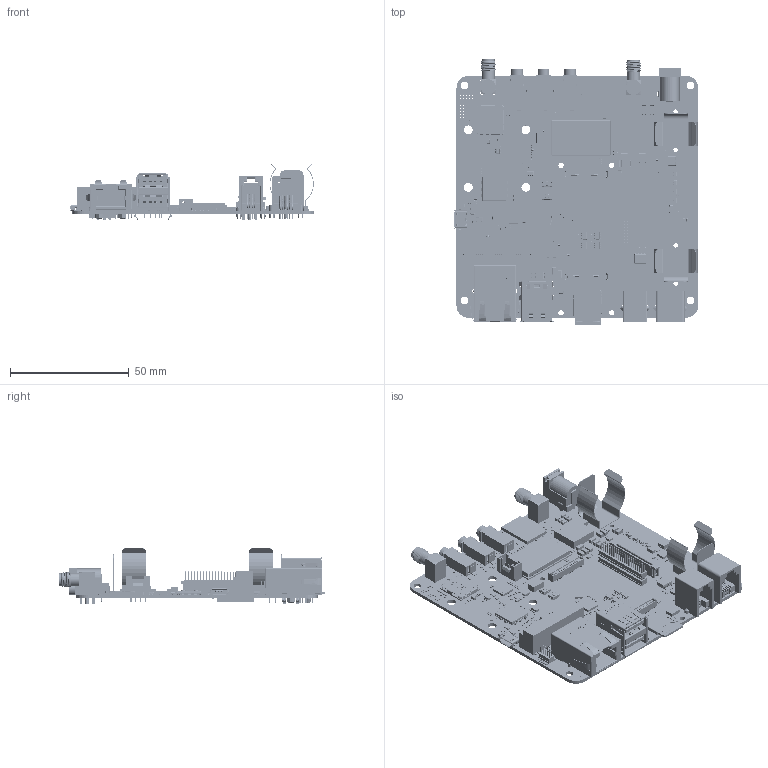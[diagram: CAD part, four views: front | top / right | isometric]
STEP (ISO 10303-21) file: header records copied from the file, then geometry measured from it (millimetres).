
FILE_DESCRIPTION(('Open CASCADE Model'),'2;1');
FILE_NAME('Open CASCADE Shape Model','2022-10-06T12:24:04',('Author'),( 'Open CASCADE'),'Open CASCADE STEP processor 7.5','Open CASCADE 7.5' ,'Unknown');
FILE_SCHEMA(('AUTOMOTIVE_DESIGN { 1 0 10303 214 1 1 1 1 }'));
Length unit declared in the file: millimetre
Products named in the file (520): PCB; Board; Open CASCADE STEP translator 7.5 10.1.1; R122; RES-0402; C157; CAP-0805; R88; R98; R97; R84; J10; ZX62-AB-5PA(31); D7; PRTR5V0U2X; SIM2; 5870494320; Body; Pins; D16; User Library-D_1006; User Library-D_1006_Pad002; User Library-D_1006_Cut; User Library-D_1006_Pad001; D15; D14; D13; C156; CAP-0402; C155; C154; C153; C152; R33; R26; R24; C41; C22; D12; D11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
Assembly tree (1075 placements, depth 5):
  PCB
    Board
      Open CASCADE STEP translator 7.5 10.1.1
    R122
      RES-0402
    C157
      CAP-0805
    R88
      RES-0402
    R98
      RES-0402
    R97
      RES-0402
    R84
      RES-0402
    J10
      ZX62-AB-5PA(31)
    D7
      PRTR5V0U2X
    SIM2
      5870494320
        Body
        Pins
    D16
      User Library-D_1006
        User Library-D_1006_Pad002
        User Library-D_1006_Cut
        User Library-D_1006_Pad001
    D15
      User Library-D_1006
        User Library-D_1006_Pad002
        User Library-D_1006_Cut
        User Library-D_1006_Pad001
    D14
      User Library-D_1006
        User Library-D_1006_Pad002
        User Library-D_1006_Cut
        User Library-D_1006_Pad001
    D13
      User Library-D_1006
        User Library-D_1006_Pad002
        User Library-D_1006_Cut
        User Library-D_1006_Pad001
    C156
      CAP-0402
    C155
      CAP-0402
    C154
      CAP-0402
    C153
      CAP-0402
    C152
      CAP-0402
    R33
      RES-0402
    R26
      RES-0402
    R24
      RES-0402
    C41
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Bounding box: 102.76 x 111.69 x 23.73 mm (x, y, z)
Volume: 31284.3 mm3; surface area: 54917 mm2
Topology: 825 solids, 842 shells, 31438 faces, 77134 edges, 46452 vertices
Faces by surface type: plane 19279, cylinder 8639, bspline 1944, sphere 1384, cone 92, extrusion 65, torus 35
Full cylindrical faces by diameter (mm): 0.15 x4, 0.263 x4, 0.375 x1, 0.4 x3, 0.42 x1, 0.5 x1, 0.6 x22, 0.75 x1, 0.762 x1, 0.8 x6, 0.9 x27, 0.92 x8, 1.1 x1, 1.25 x1, 1.512 x1, 1.54 x10, 1.6 x3, 1.7 x6, 1.85 x4, 2 x2, 2.05 x2, 2.2 x4, 2.25 x4, 2.3 x4, 2.36 x4, 3.2 x4, 3.25 x2, 3.7 x4
Entity records: 430487 total; most frequent: CARTESIAN_POINT 100160, ORIENTED_EDGE 59406, DIRECTION 56230, EDGE_CURVE 29709, VECTOR 23062, LINE 22997, VERTEX_POINT 19232, AXIS2_PLACEMENT_3D 16584
